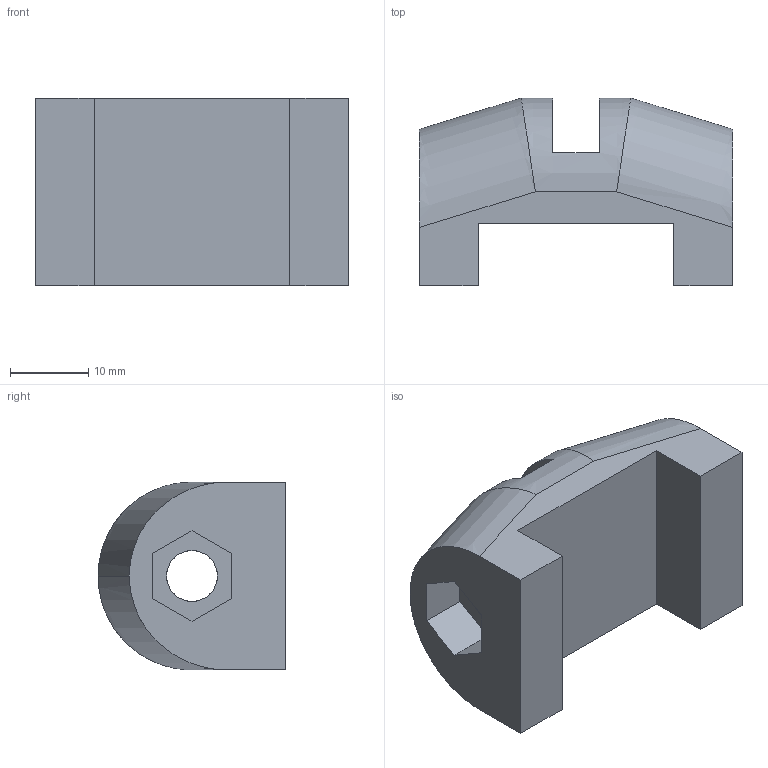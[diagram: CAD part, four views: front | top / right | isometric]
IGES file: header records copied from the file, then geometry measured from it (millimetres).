
Start section: SolidWorks IGES file using analytic representation for surfaces
Global section: file name: C:\Documents and Settings\ARGE\Desktop\yeni katalog tolgay düzenli\B kataloðu\ÇERÇEVE KELEPÇESÝ\export\767 000 006.IGS; native system: SolidWorks 2006 by SolidWorks Corporation; preprocessor: SolidWorks 2006 by SolidWorks Corporation; author: ARGE2; date: 060911.161126; units: millimetre
Bounding box: 40 x 24 x 24 mm (x, y, z)
Surface area: 5262.6 mm2 (no closed solid volume)
Topology: 0 solids, 0 shells, 34 faces, 372 edges, 372 vertices
Faces by surface type: bspline 26, revolution 8
